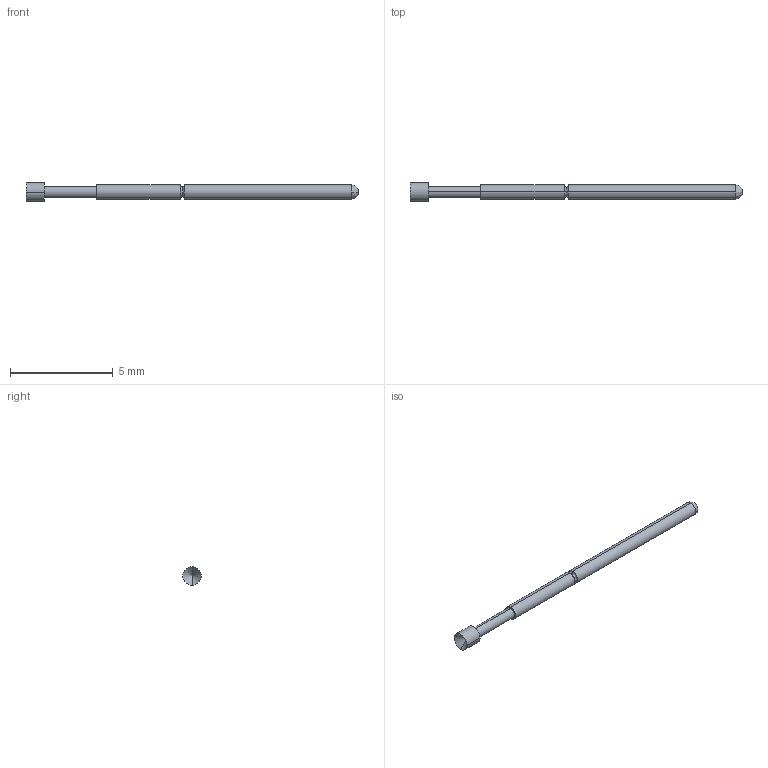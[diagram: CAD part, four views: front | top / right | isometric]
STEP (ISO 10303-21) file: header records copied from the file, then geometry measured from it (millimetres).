
FILE_DESCRIPTION (( 'STEP AP214' ), '1' );
FILE_NAME ('PA1A.STEP', '2021-08-24T13:40:29', ( '' ), ( '' ), 'SwSTEP 2.0', 'SolidWorks 2021', '' );
FILE_SCHEMA (( 'AUTOMOTIVE_DESIGN' ));
Length unit declared in the file: inch
Products named in the file (1): PA1A
Bounding box: 16.13 x 0.89 x 0.89 mm (x, y, z)
Volume: 5.7 mm3; surface area: 35.7 mm2
Topology: 1 solids, 1 shells, 19 faces, 42 edges, 25 vertices
Faces by surface type: cylinder 8, bspline 6, plane 3, cone 2
Entity records: 873 total; most frequent: CARTESIAN_POINT 187, DIRECTION 90, ORIENTED_EDGE 80, AXIS2_PLACEMENT_3D 40, EDGE_CURVE 40, CIRCLE 26, VERTEX_POINT 25, LENGTH_MEASURE_WITH_UNIT 22
